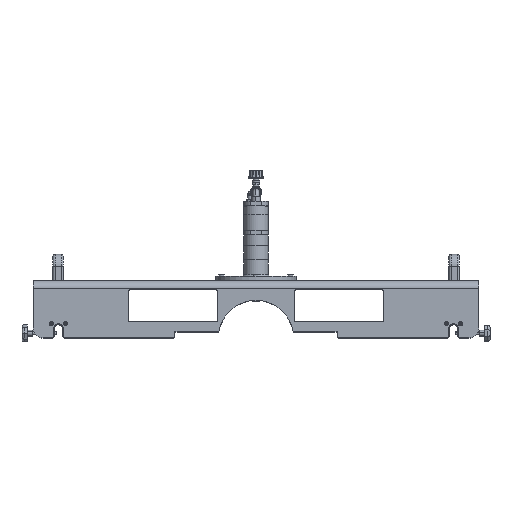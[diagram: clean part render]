
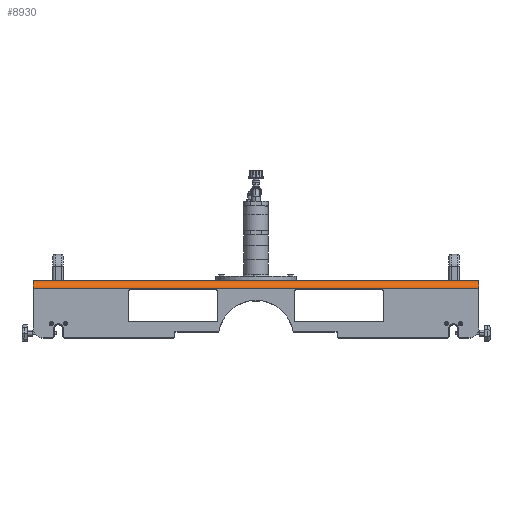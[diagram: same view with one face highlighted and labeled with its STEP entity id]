
A CAD part, top view. The second image highlights one B-rep face of the part: STEP entity #8930.
In plain terms, the highlighted cylindrical face has radius 20 mm (diameter 40 mm), a partial arc.
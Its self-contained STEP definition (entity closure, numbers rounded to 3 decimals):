
#703 = VECTOR ( 'NONE', #3542, 1000. ) ;
#1318 = CARTESIAN_POINT ( 'NONE',  ( 550., -18., 105. ) ) ;
#2333 = EDGE_CURVE ( 'NONE', #17721, #23617, #4165, .T. ) ;
#2369 = CARTESIAN_POINT ( 'NONE',  ( -550., -18., 105. ) ) ;
#2576 = EDGE_CURVE ( 'NONE', #8146, #23617, #15030, .T. ) ;
#3171 = DIRECTION ( 'NONE',  ( 0., 0., 1. ) ) ;
#3542 = DIRECTION ( 'NONE',  ( -1., 0., 0. ) ) ;
#4165 = CIRCLE ( 'NONE', #20954, 20. ) ;
#4235 = DIRECTION ( 'NONE',  ( 0., 0., -1. ) ) ;
#5074 = ORIENTED_EDGE ( 'NONE', *, *, #2333, .T. ) ;
#6026 = ORIENTED_EDGE ( 'NONE', *, *, #2576, .F. ) ;
#6253 = FACE_OUTER_BOUND ( 'NONE', #23083, .T. ) ;
#7693 = EDGE_CURVE ( 'NONE', #20197, #17721, #16870, .T. ) ;
#8146 = VERTEX_POINT ( 'NONE', #9501 ) ;
#8779 = CARTESIAN_POINT ( 'NONE',  ( -550., 2., 105. ) ) ;
#8930 = ADVANCED_FACE ( 'NONE', ( #6253 ), #20626, .T. ) ;
#9329 = AXIS2_PLACEMENT_3D ( 'NONE', #1318, #14406, #3171 ) ;
#9501 = CARTESIAN_POINT ( 'NONE',  ( 550., -18., 125. ) ) ;
#10201 = DIRECTION ( 'NONE',  ( -1., 0., 0. ) ) ;
#11442 = CIRCLE ( 'NONE', #9329, 20. ) ;
#11873 = VECTOR ( 'NONE', #10201, 1000. ) ;
#12972 = CARTESIAN_POINT ( 'NONE',  ( 550., 2., 105. ) ) ;
#14406 = DIRECTION ( 'NONE',  ( -1., 0., 0. ) ) ;
#15030 = LINE ( 'NONE', #18546, #703 ) ;
#15494 = DIRECTION ( 'NONE',  ( 1., 0., 0. ) ) ;
#16010 = DIRECTION ( 'NONE',  ( 0., 0., -1. ) ) ;
#16731 = EDGE_CURVE ( 'NONE', #8146, #20197, #11442, .T. ) ;
#16870 = LINE ( 'NONE', #23240, #11873 ) ;
#17721 = VERTEX_POINT ( 'NONE', #8779 ) ;
#18489 = CARTESIAN_POINT ( 'NONE',  ( -550., -18., 125. ) ) ;
#18546 = CARTESIAN_POINT ( 'NONE',  ( 0., -18., 125. ) ) ;
#18870 = AXIS2_PLACEMENT_3D ( 'NONE', #21572, #23437, #16010 ) ;
#20197 = VERTEX_POINT ( 'NONE', #12972 ) ;
#20626 = CYLINDRICAL_SURFACE ( 'NONE', #18870, 20. ) ;
#20954 = AXIS2_PLACEMENT_3D ( 'NONE', #2369, #15494, #4235 ) ;
#21151 = ORIENTED_EDGE ( 'NONE', *, *, #7693, .T. ) ;
#21572 = CARTESIAN_POINT ( 'NONE',  ( -1100.298, -18., 105. ) ) ;
#23083 = EDGE_LOOP ( 'NONE', ( #21151, #5074, #6026, #23314 ) ) ;
#23240 = CARTESIAN_POINT ( 'NONE',  ( 0., 2., 105. ) ) ;
#23314 = ORIENTED_EDGE ( 'NONE', *, *, #16731, .T. ) ;
#23437 = DIRECTION ( 'NONE',  ( 1., 0., 0. ) ) ;
#23617 = VERTEX_POINT ( 'NONE', #18489 ) ;
